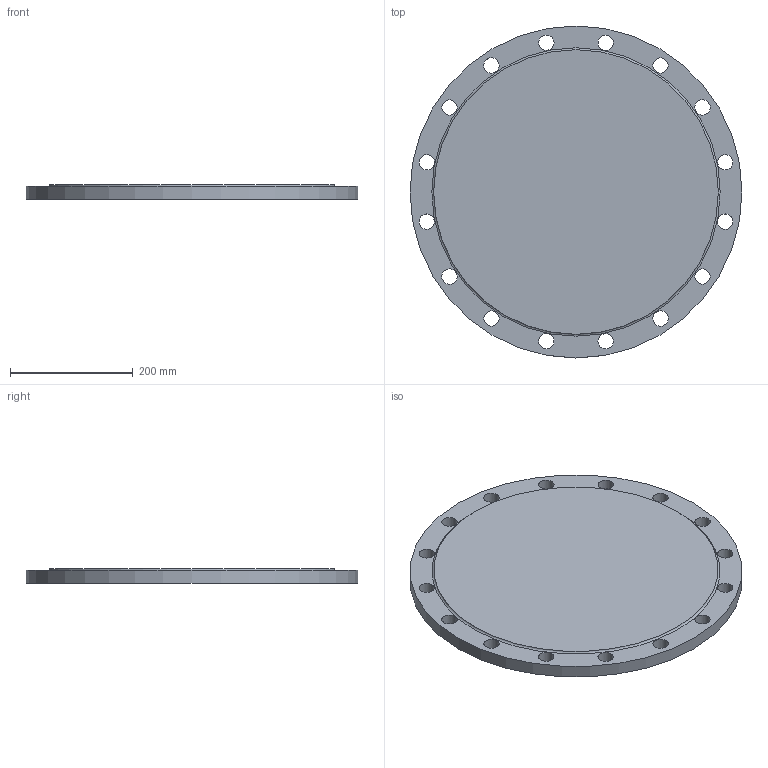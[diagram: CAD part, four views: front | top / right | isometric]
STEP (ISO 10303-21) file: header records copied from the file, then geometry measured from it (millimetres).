
FILE_DESCRIPTION(/* description */ (''),/* implementation_level */ '2;1');
FILE_NAME(/* name */ 'C:\Users\D\Documents\Inventor\HP\JIS\フランジ\JIS 5k bl rf\jis5k-bl-rf-400.stp',/* time_stamp */ '2024-09-12T16:52:03+09:00',/* author */ ('D'),/* organization */ (''),/* preprocessor_version */ 'ST-DEVELOPER v18',/* originating_system */ 'Autodesk Inventor 2020',/* authorisation */ '');
FILE_SCHEMA (('AUTOMOTIVE_DESIGN { 1 0 10303 214 3 1 1 }'));
Length unit declared in the file: millimetre
Products named in the file (1): jis5k-sop-rf-10
Bounding box: 540 x 540 x 24 mm (x, y, z)
Volume: 5152443.1 mm3; surface area: 506846.1 mm2
Topology: 1 solids, 1 shells, 21 faces, 58 edges, 40 vertices
Faces by surface type: cylinder 17, plane 3, torus 1
Full cylindrical faces by diameter (mm): 25 x16, 540 x1
Entity records: 810 total; most frequent: DIRECTION 143, CARTESIAN_POINT 120, ORIENTED_EDGE 116, AXIS2_PLACEMENT_3D 63, EDGE_CURVE 58, EDGE_LOOP 54, CIRCLE 41, VERTEX_POINT 40
